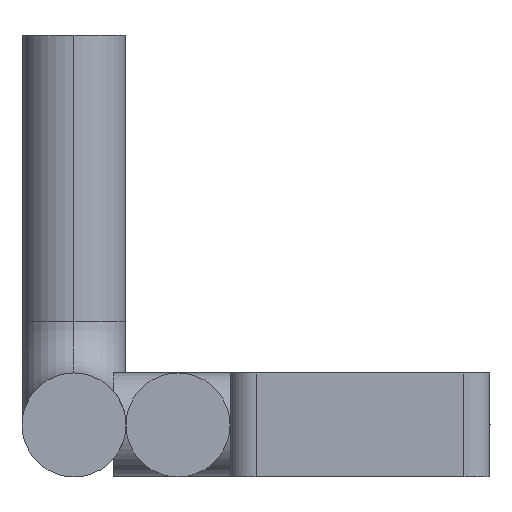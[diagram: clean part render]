
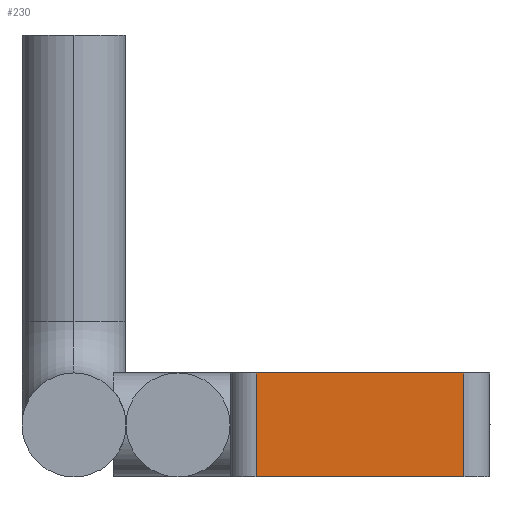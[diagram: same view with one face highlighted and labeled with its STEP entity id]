
A CAD part, left-side view. The second image highlights one B-rep face of the part: STEP entity #230.
In plain terms, the highlighted planar face has unit normal (-1, 0, 0).
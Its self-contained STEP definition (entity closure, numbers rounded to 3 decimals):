
#7 = DIRECTION ( 'NONE',  ( 0., -1., 0. ) ) ;
#8 = EDGE_CURVE ( 'NONE', #518, #898, #294, .T. ) ;
#62 = DIRECTION ( 'NONE',  ( 0., 0., 1. ) ) ;
#80 = AXIS2_PLACEMENT_3D ( 'NONE', #414, #344, #578 ) ;
#95 = EDGE_LOOP ( 'NONE', ( #160, #465, #363, #500 ) ) ;
#120 = VERTEX_POINT ( 'NONE', #897 ) ;
#160 = ORIENTED_EDGE ( 'NONE', *, *, #951, .T. ) ;
#230 = ADVANCED_FACE ( 'NONE', ( #269 ), #582, .F. ) ;
#233 = CARTESIAN_POINT ( 'NONE',  ( -223.273, 31.43, 4. ) ) ;
#255 = LINE ( 'NONE', #867, #554 ) ;
#269 = FACE_OUTER_BOUND ( 'NONE', #95, .T. ) ;
#294 = LINE ( 'NONE', #800, #403 ) ;
#344 = DIRECTION ( 'NONE',  ( 1., 0., 0. ) ) ;
#363 = ORIENTED_EDGE ( 'NONE', *, *, #662, .F. ) ;
#384 = CARTESIAN_POINT ( 'NONE',  ( -223.273, 47.43, 4. ) ) ;
#397 = DIRECTION ( 'NONE',  ( 0., 0., -1. ) ) ;
#403 = VECTOR ( 'NONE', #397, 1000. ) ;
#414 = CARTESIAN_POINT ( 'NONE',  ( -223.273, 29.43, 4. ) ) ;
#463 = LINE ( 'NONE', #233, #933 ) ;
#465 = ORIENTED_EDGE ( 'NONE', *, *, #517, .T. ) ;
#477 = DIRECTION ( 'NONE',  ( 0., -1., 0. ) ) ;
#500 = ORIENTED_EDGE ( 'NONE', *, *, #8, .T. ) ;
#517 = EDGE_CURVE ( 'NONE', #120, #647, #463, .T. ) ;
#518 = VERTEX_POINT ( 'NONE', #384 ) ;
#554 = VECTOR ( 'NONE', #477, 1000. ) ;
#578 = DIRECTION ( 'NONE',  ( 0., 0., -1. ) ) ;
#582 = PLANE ( 'NONE',  #80 ) ;
#647 = VERTEX_POINT ( 'NONE', #955 ) ;
#662 = EDGE_CURVE ( 'NONE', #518, #647, #255, .T. ) ;
#711 = CARTESIAN_POINT ( 'NONE',  ( -223.273, 47.43, -4. ) ) ;
#800 = CARTESIAN_POINT ( 'NONE',  ( -223.273, 47.43, 4. ) ) ;
#867 = CARTESIAN_POINT ( 'NONE',  ( -223.273, 29.43, 4. ) ) ;
#871 = CARTESIAN_POINT ( 'NONE',  ( -223.273, 29.43, -4. ) ) ;
#886 = LINE ( 'NONE', #871, #1017 ) ;
#897 = CARTESIAN_POINT ( 'NONE',  ( -223.273, 31.43, -4. ) ) ;
#898 = VERTEX_POINT ( 'NONE', #711 ) ;
#933 = VECTOR ( 'NONE', #62, 1000. ) ;
#951 = EDGE_CURVE ( 'NONE', #898, #120, #886, .T. ) ;
#955 = CARTESIAN_POINT ( 'NONE',  ( -223.273, 31.43, 4. ) ) ;
#1017 = VECTOR ( 'NONE', #7, 1000. ) ;
